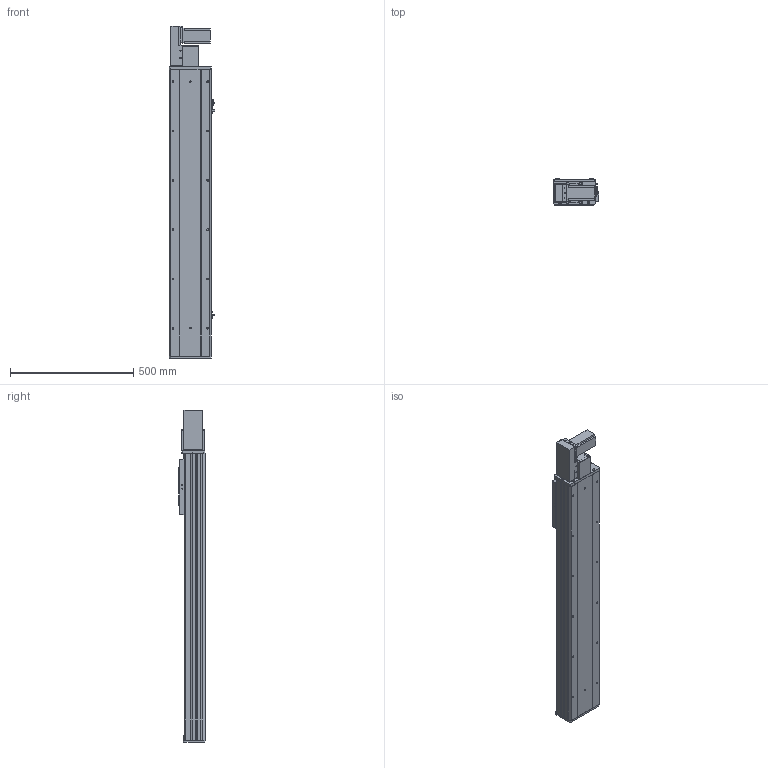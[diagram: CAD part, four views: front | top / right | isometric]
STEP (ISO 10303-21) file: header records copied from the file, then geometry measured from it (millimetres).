
FILE_DESCRIPTION (( 'STEP AP203' ), '1' );
FILE_NAME ('Y170CB-D105-S850-BL-P400W.STEP', '2020-02-20T01:13:30', ( '微软用户' ), ( '微软中国' ), 'SwSTEP 2.0', 'SolidWorks 2017', '' );
FILE_SCHEMA (( 'CONFIG_CONTROL_DESIGN' ));
Length unit declared in the file: millimetre
Products named in the file (18): B-源倛裔啣; 70B喘謫眊----; 70CB-耜裔啣-; 17B-耜蚾蟀諉啣----; Y1埴倛裔; 70C--詩湍揤踡え-; 0B-萇儂楊擘啣; Y170CB-D105-S850-BL-P400W; 70CB--耜裔; san松下电机400不带刹车----; 70C-雄赽釱-奻-; Y70俋欶BR----; 0C--雄赽釱俋欶-170; 70CB-掛极-; 70CB-詩湍--; --70CB --喘謫眊楊擘啣-; Y100-135俋离換覜ん--; Y170CB-陔俋离換覜結え---
Assembly tree (21 placements, depth 2):
  Y170CB-D105-S850-BL-P400W
    B-源倛裔啣
    17B-耜蚾蟀諉啣----
    0B-萇儂楊擘啣
    san松下电机400不带刹车----
    Y70俋欶BR----
    70CB-掛极-
    --70CB --喘謫眊楊擘啣-
    70CB-耜裔啣-  x2
    70C--詩湍揤踡え-  x2
    70CB--耜裔
    70C-雄赽釱-奻-
    0C--雄赽釱俋欶-170
    70CB-詩湍--
    Y100-135俋离換覜ん--  x3
    Y170CB-陔俋离換覜結え---
    70B喘謫眊----
    Y1埴倛裔
Bounding box: 183.5 x 107 x 1347 mm (x, y, z)
Volume: 5947365.3 mm3; surface area: 2126012.7 mm2
Topology: 21 solids, 21 shells, 999 faces, 2669 edges, 1770 vertices
Faces by surface type: cylinder 511, plane 464, cone 24
Entity records: 31736 total; most frequent: CARTESIAN_POINT 5796, DIRECTION 5158, ORIENTED_EDGE 4820, EDGE_CURVE 2410, AXIS2_PLACEMENT_3D 1884, VERTEX_POINT 1600, LINE 1390, VECTOR 1390
